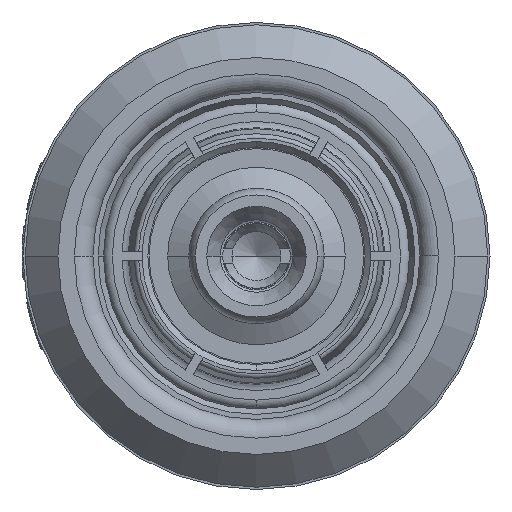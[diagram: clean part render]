
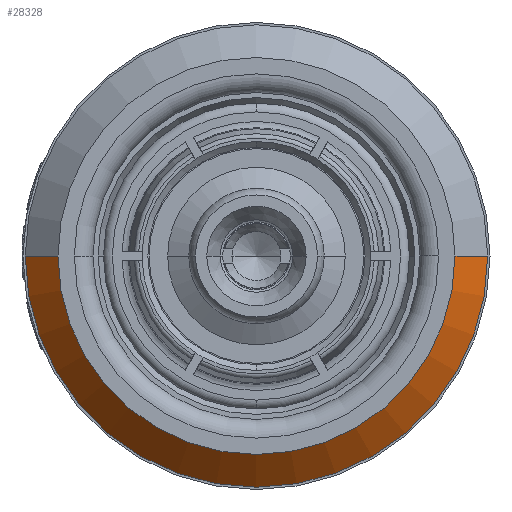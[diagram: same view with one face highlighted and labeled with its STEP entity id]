
A CAD part, left-side view. The second image highlights one B-rep face of the part: STEP entity #28328.
In plain terms, the highlighted conical face has half-angle 45 degrees and reference radius 4.6 mm.
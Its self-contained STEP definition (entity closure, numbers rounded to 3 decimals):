
#10680=CARTESIAN_POINT('',(0.7,0.,0.));
#10681=DIRECTION('',(1.,0.,0.));
#10682=DIRECTION('',(0.,-1.,0.));
#10683=AXIS2_PLACEMENT_3D('',#10680,#10681,#10682);
#10710=DIRECTION('',(-0.707,0.707,0.));
#10711=VECTOR('',#10710,0.99);
#10712=CARTESIAN_POINT('',(0.7,-4.95,
0.));
#10713=LINE('',#10712,#10711);
#10717=DIRECTION('',(-0.707,-0.707,0.));
#10718=VECTOR('',#10717,0.99);
#10719=CARTESIAN_POINT('',(0.7,4.95,
0.));
#10720=LINE('',#10719,#10718);
#10764=CARTESIAN_POINT('',(0.,0.,0.));
#10765=DIRECTION('',(1.,0.,0.));
#10766=DIRECTION('',(0.,-1.,0.));
#10767=AXIS2_PLACEMENT_3D('',#10764,#10765,#10766);
#19992=CARTESIAN_POINT('',(0.7,4.95,0.));
#19993=CARTESIAN_POINT('',(0.7,-4.95,0.));
#19994=VERTEX_POINT('',#19992);
#19995=VERTEX_POINT('',#19993);
#19996=CARTESIAN_POINT('',(0.,4.25,0.));
#19997=CARTESIAN_POINT('',(0.,-4.25,0.));
#19998=VERTEX_POINT('',#19996);
#19999=VERTEX_POINT('',#19997);
#28314=CARTESIAN_POINT('',(0.35,0.,0.));
#28315=DIRECTION('',(1.,0.,0.));
#28316=DIRECTION('',(0.,0.,-1.));
#28317=AXIS2_PLACEMENT_3D('',#28314,#28315,#28316);
#28318=CONICAL_SURFACE('',#28317,4.6,45.);
#28319=ORIENTED_EDGE('',*,*,#28304,.T.);
#28321=ORIENTED_EDGE('',*,*,#28320,.T.);
#28323=ORIENTED_EDGE('',*,*,#28322,.F.);
#28325=ORIENTED_EDGE('',*,*,#28324,.F.);
#28326=EDGE_LOOP('',(#28319,#28321,#28323,#28325));
#28327=FACE_OUTER_BOUND('',#28326,.F.);
#28328=ADVANCED_FACE('',(#28327),#28318,.T.);
#10684=CIRCLE('',#10683,4.95);
#10768=CIRCLE('',#10767,4.25);
#28304=EDGE_CURVE('',#19995,#19994,#10684,.T.);
#28320=EDGE_CURVE('',#19994,#19998,#10720,.T.);
#28322=EDGE_CURVE('',#19999,#19998,#10768,.T.);
#28324=EDGE_CURVE('',#19995,#19999,#10713,.T.);
